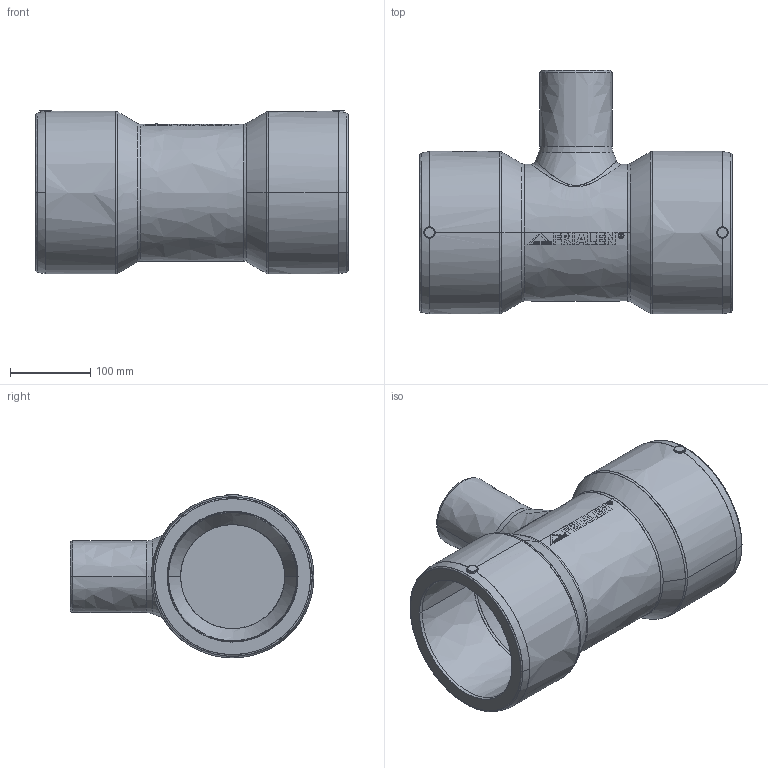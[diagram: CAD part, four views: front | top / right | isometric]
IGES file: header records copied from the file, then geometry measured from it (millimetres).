
Start section:  PTC IGES file: ta-red_d160_d90_01.igs
Global section: file name: ta-red_d160_d90_01.igs; native system: Creo Parametric by PTC Inc.; preprocessor: 2019030; author: jungmang; organization: Unknown; date: 20201221.164136; units: millimetre
Bounding box: 390 x 304.5 x 204.6 mm (x, y, z)
Surface area: 450405.8 mm2 (no closed solid volume)
Topology: 0 solids, 0 shells, 282 faces, 1474 edges, 1474 vertices
Faces by surface type: bspline 282
